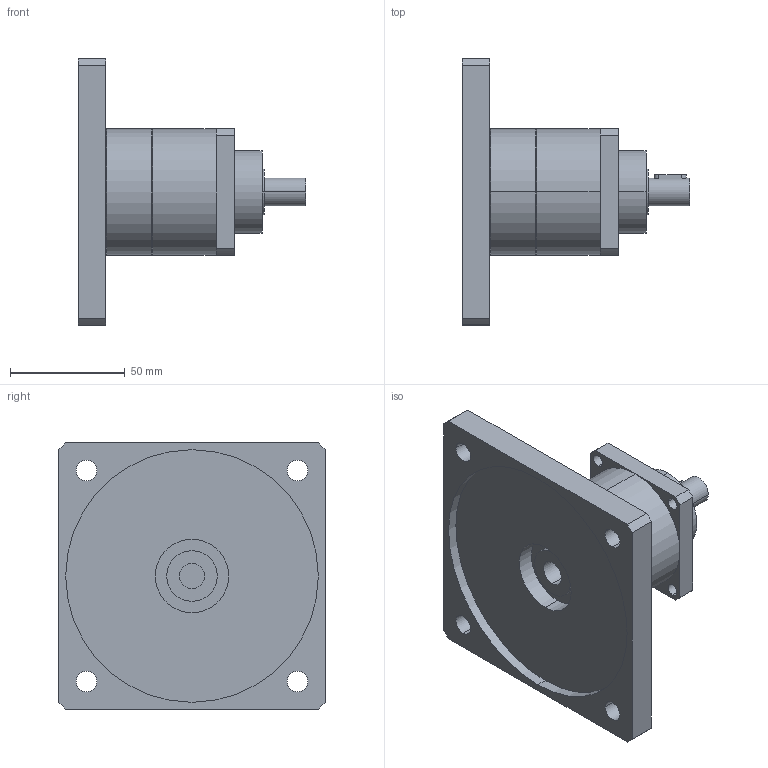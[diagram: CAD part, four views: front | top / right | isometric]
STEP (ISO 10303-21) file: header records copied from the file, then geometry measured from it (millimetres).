
FILE_DESCRIPTION(('CoCreate Modeling STEP Export'),'2;1');
FILE_NAME('GPT55_ig-3-4-5-7-10_12_B5A_11_P09.stp','2014-08-25T14:31:17',(''),(''),'CoCreate Modeling STEP processor for AP214 (Solid Model)','CoCreate Modeling 16.00C 25-Feb-2009 (C) Parametric Technology GmbH','');
FILE_SCHEMA(('AUTOMOTIVE_DESIGN { 1 0 10303 214 1 1 1 1 }'));
Length unit declared in the file: millimetre
Products named in the file (2): GPT55_ig-3-4-5-7-10_12_B5A_11_P09
Assembly tree (1 placements, depth 2):
  GPT55_ig-3-4-5-7-10_12_B5A_11_P09
    GPT55_ig-3-4-5-7-10_12_B5A_11_P09
Bounding box: 99 x 116 x 116 mm (x, y, z)
Volume: 260248.6 mm3; surface area: 50585.7 mm2
Topology: 1 solids, 1 shells, 77 faces, 204 edges, 139 vertices
Faces by surface type: cylinder 46, plane 27, cone 4
Entity records: 2515 total; most frequent: CARTESIAN_POINT 710, ORIENTED_EDGE 408, DIRECTION 318, EDGE_CURVE 204, VERTEX_POINT 139, AXIS2_PLACEMENT_3D 117, EDGE_LOOP 103, VECTOR 84
